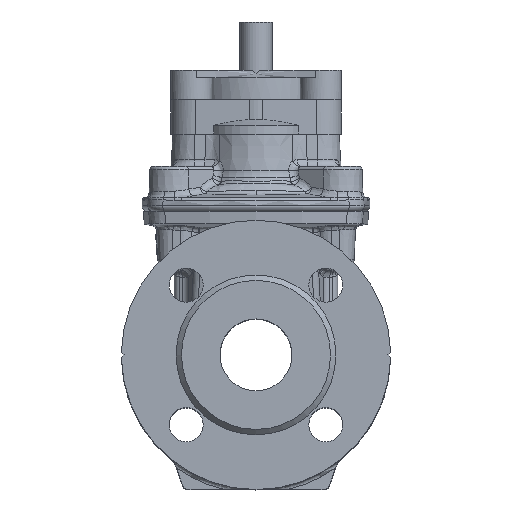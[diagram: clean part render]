
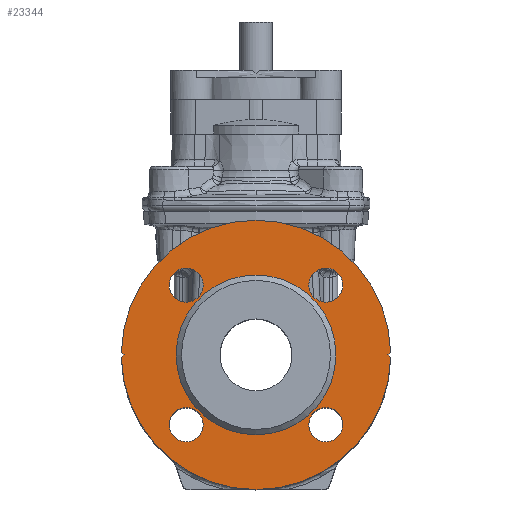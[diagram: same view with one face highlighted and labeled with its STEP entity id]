
A CAD part, top view. The second image highlights one B-rep face of the part: STEP entity #23344.
In plain terms, the highlighted planar face has unit normal (0, 0, 1).
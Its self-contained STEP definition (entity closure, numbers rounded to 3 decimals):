
#448 = ORIENTED_EDGE ( 'NONE', *, *, #15823, .T. ) ;
#1174 = ORIENTED_EDGE ( 'NONE', *, *, #18924, .T. ) ;
#1205 = CARTESIAN_POINT ( 'NONE',  ( 0., 0., 67. ) ) ;
#1390 = AXIS2_PLACEMENT_3D ( 'NONE', #1205, #21682, #15805 ) ;
#1423 = EDGE_LOOP ( 'NONE', ( #24229 ) ) ;
#1553 = EDGE_CURVE ( 'NONE', #12087, #12087, #23004, .T. ) ;
#1845 = CARTESIAN_POINT ( 'NONE',  ( -14.5, 59., 67. ) ) ;
#2235 = VERTEX_POINT ( 'NONE', #11593 ) ;
#2259 = CIRCLE ( 'NONE', #1390, 75. ) ;
#2418 = EDGE_LOOP ( 'NONE', ( #24825 ) ) ;
#2512 = VERTEX_POINT ( 'NONE', #12890 ) ;
#2532 = CARTESIAN_POINT ( 'NONE',  ( 74.985, -1.485, 67. ) ) ;
#2570 = DIRECTION ( 'NONE',  ( -1., 0., 0. ) ) ;
#2616 = ORIENTED_EDGE ( 'NONE', *, *, #3270, .T. ) ;
#2781 = CARTESIAN_POINT ( 'NONE',  ( -29.391, 38.891, 67. ) ) ;
#3270 = EDGE_CURVE ( 'NONE', #5122, #11639, #8962, .T. ) ;
#4221 = DIRECTION ( 'NONE',  ( -1., 0., 0. ) ) ;
#4395 = CARTESIAN_POINT ( 'NONE',  ( 0., 0., 67. ) ) ;
#4459 = AXIS2_PLACEMENT_3D ( 'NONE', #12556, #19102, #4221 ) ;
#4460 = AXIS2_PLACEMENT_3D ( 'NONE', #24546, #5832, #14181 ) ;
#4740 = DIRECTION ( 'NONE',  ( 0., 0., -1. ) ) ;
#4784 = FACE_BOUND ( 'NONE', #20618, .T. ) ;
#5122 = VERTEX_POINT ( 'NONE', #7634 ) ;
#5355 = EDGE_CURVE ( 'NONE', #25179, #25179, #9080, .T. ) ;
#5544 = AXIS2_PLACEMENT_3D ( 'NONE', #4395, #19010, #12728 ) ;
#5550 = DIRECTION ( 'NONE',  ( 0., -1., 0. ) ) ;
#5827 = DIRECTION ( 'NONE',  ( 1., 0., 0. ) ) ;
#5832 = DIRECTION ( 'NONE',  ( 0., 0., 1. ) ) ;
#5980 = EDGE_CURVE ( 'NONE', #2235, #10702, #11274, .T. ) ;
#7243 = FACE_BOUND ( 'NONE', #2418, .T. ) ;
#7536 = VERTEX_POINT ( 'NONE', #24153 ) ;
#7634 = CARTESIAN_POINT ( 'NONE',  ( 73.5, 0., 67. ) ) ;
#8962 = LINE ( 'NONE', #23436, #13468 ) ;
#9080 = CIRCLE ( 'NONE', #16918, 9.5 ) ;
#9285 = FACE_BOUND ( 'NONE', #1423, .T. ) ;
#9414 = DIRECTION ( 'NONE',  ( 0., 0., 1. ) ) ;
#9530 = DIRECTION ( 'NONE',  ( -0.707, 0.707, 0. ) ) ;
#9929 = CARTESIAN_POINT ( 'NONE',  ( -38.891, 38.891, 67. ) ) ;
#10075 = LINE ( 'NONE', #18415, #22083 ) ;
#10158 = ORIENTED_EDGE ( 'NONE', *, *, #23759, .F. ) ;
#10165 = DIRECTION ( 'NONE',  ( 0.707, 0.707, 0. ) ) ;
#10702 = VERTEX_POINT ( 'NONE', #2532 ) ;
#11104 = VERTEX_POINT ( 'NONE', #21357 ) ;
#11199 = ORIENTED_EDGE ( 'NONE', *, *, #12301, .T. ) ;
#11274 = CIRCLE ( 'NONE', #13034, 75. ) ;
#11593 = CARTESIAN_POINT ( 'NONE',  ( -74.985, -1.485, 67. ) ) ;
#11639 = VERTEX_POINT ( 'NONE', #23712 ) ;
#12087 = VERTEX_POINT ( 'NONE', #16448 ) ;
#12301 = EDGE_CURVE ( 'NONE', #11639, #12491, #2259, .T. ) ;
#12491 = VERTEX_POINT ( 'NONE', #23549 ) ;
#12556 = CARTESIAN_POINT ( 'NONE',  ( 38.891, -38.891, 67. ) ) ;
#12728 = DIRECTION ( 'NONE',  ( 0., -1., 0. ) ) ;
#12890 = CARTESIAN_POINT ( 'NONE',  ( 29.391, -38.891, 67. ) ) ;
#12896 = VECTOR ( 'NONE', #15404, 1000. ) ;
#13034 = AXIS2_PLACEMENT_3D ( 'NONE', #18021, #9414, #13800 ) ;
#13080 = DIRECTION ( 'NONE',  ( 0.707, 0.707, 0. ) ) ;
#13192 = EDGE_CURVE ( 'NONE', #11104, #11104, #16237, .T. ) ;
#13468 = VECTOR ( 'NONE', #13080, 1000. ) ;
#13504 = CARTESIAN_POINT ( 'NONE',  ( 14.5, 59., 67. ) ) ;
#13800 = DIRECTION ( 'NONE',  ( 0., -1., 0. ) ) ;
#14181 = DIRECTION ( 'NONE',  ( 1., 0., 0. ) ) ;
#14832 = ORIENTED_EDGE ( 'NONE', *, *, #5980, .T. ) ;
#15034 = AXIS2_PLACEMENT_3D ( 'NONE', #9929, #22631, #5827 ) ;
#15160 = FACE_BOUND ( 'NONE', #17113, .T. ) ;
#15404 = DIRECTION ( 'NONE',  ( -0.707, 0.707, 0. ) ) ;
#15437 = FACE_BOUND ( 'NONE', #21858, .T. ) ;
#15575 = DIRECTION ( 'NONE',  ( 0., 0., 1. ) ) ;
#15598 = ORIENTED_EDGE ( 'NONE', *, *, #5355, .T. ) ;
#15805 = DIRECTION ( 'NONE',  ( 0., -1., 0. ) ) ;
#15823 = EDGE_CURVE ( 'NONE', #2512, #2512, #19756, .T. ) ;
#16237 = CIRCLE ( 'NONE', #4460, 9.5 ) ;
#16414 = ORIENTED_EDGE ( 'NONE', *, *, #25791, .F. ) ;
#16448 = CARTESIAN_POINT ( 'NONE',  ( 0., -44.5, 67. ) ) ;
#16714 = CARTESIAN_POINT ( 'NONE',  ( 29.391, 38.891, 67. ) ) ;
#16918 = AXIS2_PLACEMENT_3D ( 'NONE', #23442, #4740, #2570 ) ;
#17113 = EDGE_LOOP ( 'NONE', ( #15598 ) ) ;
#17621 = PLANE ( 'NONE',  #19849 ) ;
#18021 = CARTESIAN_POINT ( 'NONE',  ( 0., 0., 67. ) ) ;
#18415 = CARTESIAN_POINT ( 'NONE',  ( -100., 26.5, 67. ) ) ;
#18924 = EDGE_CURVE ( 'NONE', #10702, #5122, #26187, .T. ) ;
#19010 = DIRECTION ( 'NONE',  ( 0., 0., 1. ) ) ;
#19102 = DIRECTION ( 'NONE',  ( 0., 0., -1. ) ) ;
#19756 = CIRCLE ( 'NONE', #4459, 9.5 ) ;
#19849 = AXIS2_PLACEMENT_3D ( 'NONE', #25946, #15575, #5550 ) ;
#20618 = EDGE_LOOP ( 'NONE', ( #24702 ) ) ;
#20780 = EDGE_CURVE ( 'NONE', #25570, #25570, #22837, .T. ) ;
#21085 = EDGE_LOOP ( 'NONE', ( #14832, #1174, #2616, #11199, #16414, #10158 ) ) ;
#21357 = CARTESIAN_POINT ( 'NONE',  ( -29.391, -38.891, 67. ) ) ;
#21682 = DIRECTION ( 'NONE',  ( 0., 0., 1. ) ) ;
#21858 = EDGE_LOOP ( 'NONE', ( #448 ) ) ;
#22083 = VECTOR ( 'NONE', #9530, 1000. ) ;
#22227 = FACE_OUTER_BOUND ( 'NONE', #21085, .T. ) ;
#22631 = DIRECTION ( 'NONE',  ( 0., 0., 1. ) ) ;
#22837 = CIRCLE ( 'NONE', #15034, 9.5 ) ;
#22893 = VECTOR ( 'NONE', #10165, 1000. ) ;
#23004 = CIRCLE ( 'NONE', #5544, 44.5 ) ;
#23344 = ADVANCED_FACE ( 'NONE', ( #9285, #15437, #15160, #7243, #22227, #4784 ), #17621, .T. ) ;
#23436 = CARTESIAN_POINT ( 'NONE',  ( 100., 26.5, 67. ) ) ;
#23442 = CARTESIAN_POINT ( 'NONE',  ( 38.891, 38.891, 67. ) ) ;
#23549 = CARTESIAN_POINT ( 'NONE',  ( -74.985, 1.485, 67. ) ) ;
#23712 = CARTESIAN_POINT ( 'NONE',  ( 74.985, 1.485, 67. ) ) ;
#23759 = EDGE_CURVE ( 'NONE', #2235, #7536, #24238, .T. ) ;
#24153 = CARTESIAN_POINT ( 'NONE',  ( -73.5, 0., 67. ) ) ;
#24229 = ORIENTED_EDGE ( 'NONE', *, *, #20780, .F. ) ;
#24238 = LINE ( 'NONE', #1845, #22893 ) ;
#24546 = CARTESIAN_POINT ( 'NONE',  ( -38.891, -38.891, 67. ) ) ;
#24702 = ORIENTED_EDGE ( 'NONE', *, *, #1553, .F. ) ;
#24825 = ORIENTED_EDGE ( 'NONE', *, *, #13192, .F. ) ;
#25179 = VERTEX_POINT ( 'NONE', #16714 ) ;
#25570 = VERTEX_POINT ( 'NONE', #2781 ) ;
#25791 = EDGE_CURVE ( 'NONE', #7536, #12491, #10075, .T. ) ;
#25946 = CARTESIAN_POINT ( 'NONE',  ( 0., 44.5, 67. ) ) ;
#26187 = LINE ( 'NONE', #13504, #12896 ) ;
